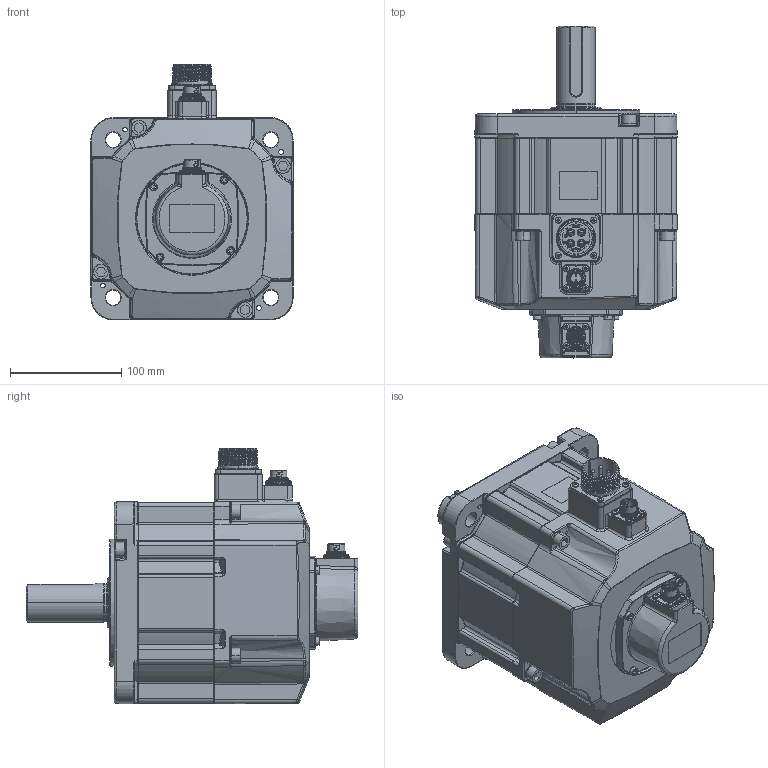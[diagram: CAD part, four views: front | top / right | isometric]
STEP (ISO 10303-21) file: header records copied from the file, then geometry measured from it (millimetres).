
FILE_DESCRIPTION((''),'2;1');
FILE_NAME('ASM0001_ASM','2024-10-18T17:30:58',('TED.FANG'),(''),'CREO PARAMETRIC BY PTC INC, 2020454','CREO PARAMETRIC BY PTC INC, 2020454','');
FILE_SCHEMA(('CONFIG_CONTROL_DESIGN'));
Products named in the file (28): ECM-B3M-F_1830SS__SW0002; LQM37B48FFDB5MH_1; LQM37B48FFDB5MH_2; LQM37B48FFDB5MH_3; LQM37B48FFDB5MH_4; LQM37B48FFDB5MH_5; LQM37B48FFDB5MH_6; LQM37B48FFDB5MH_7; LQM37B48FFDB5MH_8; LQM37B48FFDB5MH_9; LQM37B48FFDB5MH_10; LQM37B48FFDB5MH_11; LQM37B48FFDB5MH_12; LQM37B48FFDB5MH_13; LQM37B48FFDB5MH_14; LQM37B48FFDB5MH_15; LQM37B48FFDB5MH_ASM; SM-10RH-B-RECEPTACLE_ASM; LQM3414E83732KW_1; LQM3414E83732KW_2; LQM3414E83732KW_3; LQM3414E83732KW_4; LQM3414E83732KW_5; LQM3414E83732KW_6; LQM3414E83732KW_7; LQM3414E83732KW_ASM; SM-2RH-B-20240329_ASM; ASM0001_ASM
Assembly tree (27 placements, depth 4):
  ASM0001_ASM
    ECM-B3M-F_1830SS__SW0002
    SM-10RH-B-RECEPTACLE_ASM
      LQM37B48FFDB5MH_ASM
        LQM37B48FFDB5MH_1
        LQM37B48FFDB5MH_2
        LQM37B48FFDB5MH_3
        LQM37B48FFDB5MH_4
        LQM37B48FFDB5MH_5
        LQM37B48FFDB5MH_6
        LQM37B48FFDB5MH_7
        LQM37B48FFDB5MH_8
        LQM37B48FFDB5MH_9
        LQM37B48FFDB5MH_10
        LQM37B48FFDB5MH_11
        LQM37B48FFDB5MH_12
        LQM37B48FFDB5MH_13
        LQM37B48FFDB5MH_14
        LQM37B48FFDB5MH_15
    SM-2RH-B-20240329_ASM
      LQM3414E83732KW_ASM
        LQM3414E83732KW_1
        LQM3414E83732KW_2
        LQM3414E83732KW_3
        LQM3414E83732KW_4
        LQM3414E83732KW_5
        LQM3414E83732KW_6
        LQM3414E83732KW_7
Bounding box: 181.48 x 297.8 x 229.49 mm (x, y, z)
Volume: 5153050.2 mm3; surface area: 241518.5 mm2
Topology: 23 solids, 30 shells, 5117 faces, 13975 edges, 9098 vertices
Faces by surface type: plane 2510, cylinder 1205, bspline 387, cone 381, torus 275, extrusion 261, sphere 98
Entity records: 199563 total; most frequent: CARTESIAN_POINT 71414, ORIENTED_EDGE 27676, DIRECTION 25216, EDGE_CURVE 13875, VERTEX_POINT 9097, AXIS2_PLACEMENT_3D 8530, VECTOR 8156, LINE 7895
